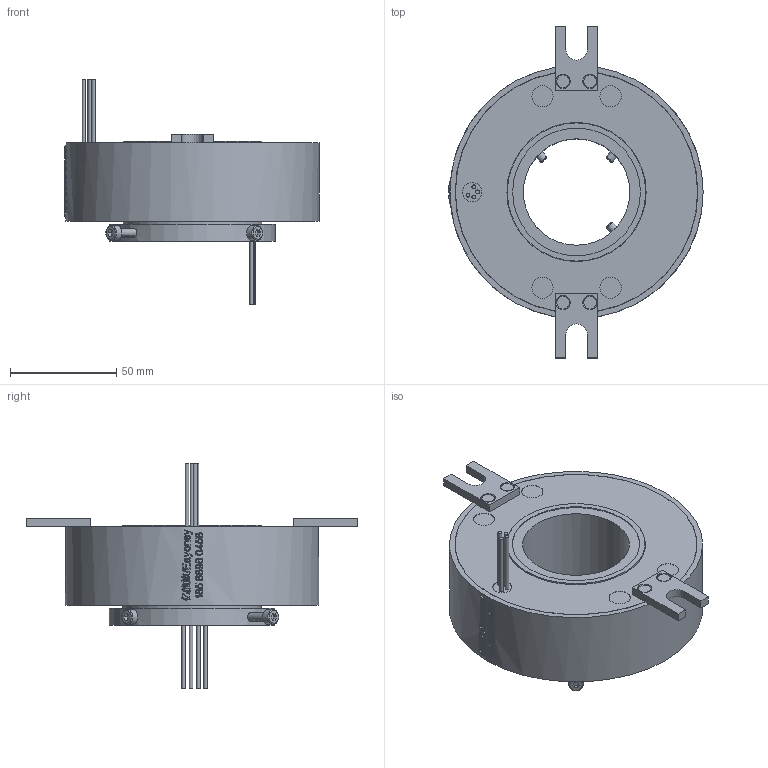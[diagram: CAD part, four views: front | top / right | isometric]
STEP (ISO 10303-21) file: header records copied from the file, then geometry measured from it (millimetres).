
FILE_DESCRIPTION(/* description */ (''),/* implementation_level */ '2;1');
FILE_NAME(/* name */ 'YDS50119-0210-3D模型.stp',/* time_stamp */ '2025-09-03T17:23:40+08:00',/* author */ (''),/* organization */ (''),/* preprocessor_version */ 'ST-DEVELOPER v16.7',/* originating_system */ 'SIEMENS PLM Software NX 12.0',/* authorisation */ '');
FILE_SCHEMA (('AUTOMOTIVE_DESIGN { 1 0 10303 214 3 1 1 1 }'));
Length unit declared in the file: millimetre
Products named in the file (1): Admi57E0E5BE08zt
Bounding box: 119.5 x 156 x 106.1 mm (x, y, z)
Volume: 368451.8 mm3; surface area: 51786.5 mm2
Topology: 1 solids, 5 shells, 902 faces, 2404 edges, 1599 vertices
Faces by surface type: extrusion 452, plane 327, cylinder 74, bspline 33, cone 12, torus 4
Full cylindrical faces by diameter (mm): 1.8 x8, 3 x4, 3.4 x1, 3.5 x4, 4 x7, 6 x4, 7 x4, 9 x1, 10 x4, 50 x1, 60 x1, 65 x2, 65.4 x1, 69.8 x1, 70 x1, 78 x1, 113.8 x2, 114 x2, 119 x1
Entity records: 35829 total; most frequent: CARTESIAN_POINT 16995, ORIENTED_EDGE 4628, EDGE_CURVE 2314, B_SPLINE_CURVE_WITH_KNOTS 2203, DIRECTION 2132, VERTEX_POINT 1575, EDGE_LOOP 1069, ADVANCED_FACE 902
